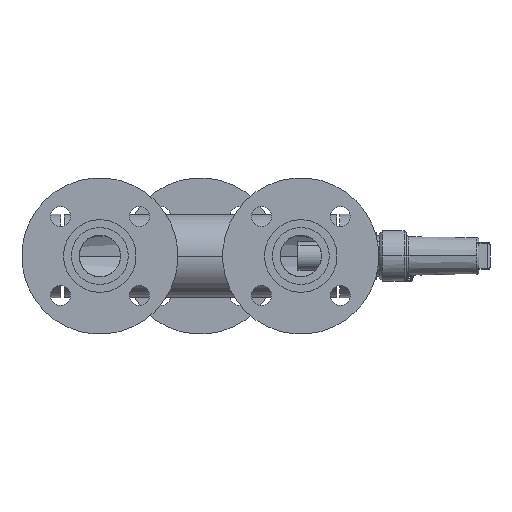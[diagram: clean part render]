
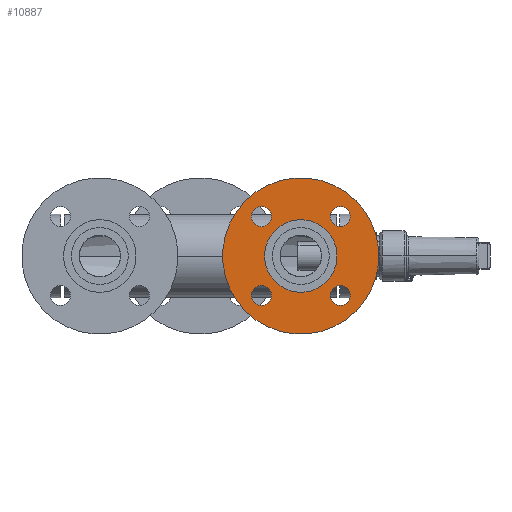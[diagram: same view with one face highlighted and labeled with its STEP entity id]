
A CAD part, left-side view. The second image highlights one B-rep face of the part: STEP entity #10887.
In plain terms, the highlighted planar face has unit normal (-1, 0, 0) as drawn and (0, -1, 0) by its records, which use the part's own axes.
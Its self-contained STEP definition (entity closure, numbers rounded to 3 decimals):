
#447 = CIRCLE ( 'NONE', #448, 70. ) ;
#448 = AXIS2_PLACEMENT_3D ( 'NONE', #449, #450, #451 ) ;
#449 = CARTESIAN_POINT ( 'NONE',  ( 0., 4., 0. ) ) ;
#450 = DIRECTION ( 'NONE',  ( 0., -1., 0. ) ) ;
#451 = DIRECTION ( 'NONE',  ( 1., 0., 0. ) ) ;
#676 = ORIENTED_EDGE ( 'NONE', *, *, #17905, .T. ) ;
#17454 = VERTEX_POINT ( 'NONE', #8065 ) ;
#17678 = VERTEX_POINT ( 'NONE', #8312 ) ;
#17757 = ORIENTED_EDGE ( 'NONE', *, *, #3048, .T. ) ;
#17905 = EDGE_CURVE ( 'NONE', #17678, #17454, #8529, .T. ) ;
#1775 = ORIENTED_EDGE ( 'NONE', *, *, #13713, .T. ) ;
#1867 = CARTESIAN_POINT ( 'NONE',  ( -70., 4., 0. ) ) ;
#18298 = EDGE_LOOP ( 'NONE', ( #17757, #22320 ) ) ;
#2868 = CARTESIAN_POINT ( 'NONE',  ( 70., 4., 0. ) ) ;
#3048 = EDGE_CURVE ( 'NONE', #4681, #5101, #25786, .T. ) ;
#19434 = ORIENTED_EDGE ( 'NONE', *, *, #15257, .T. ) ;
#19969 = ORIENTED_EDGE ( 'NONE', *, *, #25956, .T. ) ;
#3925 = VERTEX_POINT ( 'NONE', #26391 ) ;
#20512 = EDGE_LOOP ( 'NONE', ( #19969, #19434 ) ) ;
#4359 = VERTEX_POINT ( 'NONE', #26783 ) ;
#20767 = ORIENTED_EDGE ( 'NONE', *, *, #22647, .T. ) ;
#4508 = CARTESIAN_POINT ( 'NONE',  ( -32.5, 4., 0. ) ) ;
#4681 = VERTEX_POINT ( 'NONE', #26916 ) ;
#21305 = ORIENTED_EDGE ( 'NONE', *, *, #12707, .T. ) ;
#5101 = VERTEX_POINT ( 'NONE', #27099 ) ;
#5103 = CARTESIAN_POINT ( 'NONE',  ( 32.5, 4., 0. ) ) ;
#5242 = CIRCLE ( 'NONE', #5243, 70. ) ;
#5243 = AXIS2_PLACEMENT_3D ( 'NONE', #5244, #5245, #5246 ) ;
#5244 = CARTESIAN_POINT ( 'NONE',  ( 0., 4., 0. ) ) ;
#5245 = DIRECTION ( 'NONE',  ( 0., -1., 0. ) ) ;
#5246 = DIRECTION ( 'NONE',  ( 1., 0., 0. ) ) ;
#5470 = CIRCLE ( 'NONE', #5471, 32.5 ) ;
#5471 = AXIS2_PLACEMENT_3D ( 'NONE', #5472, #5473, #5474 ) ;
#5472 = CARTESIAN_POINT ( 'NONE',  ( 0., 4., 0. ) ) ;
#5473 = DIRECTION ( 'NONE',  ( 0., -1., 0. ) ) ;
#5474 = DIRECTION ( 'NONE',  ( 1., 0., 0. ) ) ;
#5534 = EDGE_CURVE ( 'NONE', #5101, #4681, #27407, .T. ) ;
#21927 = VERTEX_POINT ( 'NONE', #22569 ) ;
#21928 = EDGE_LOOP ( 'NONE', ( #21305, #20767 ) ) ;
#22320 = ORIENTED_EDGE ( 'NONE', *, *, #5534, .T. ) ;
#22359 = VERTEX_POINT ( 'NONE', #23056 ) ;
#22569 = CARTESIAN_POINT ( 'NONE',  ( -9., 4., 50. ) ) ;
#6264 = CIRCLE ( 'NONE', #6265, 32.5 ) ;
#6265 = AXIS2_PLACEMENT_3D ( 'NONE', #6266, #6267, #6268 ) ;
#6266 = CARTESIAN_POINT ( 'NONE',  ( 0., 4., 0. ) ) ;
#6267 = DIRECTION ( 'NONE',  ( 0., -1., 0. ) ) ;
#6268 = DIRECTION ( 'NONE',  ( 1., 0., 0. ) ) ;
#22647 = EDGE_CURVE ( 'NONE', #22359, #21927, #23543, .T. ) ;
#23056 = CARTESIAN_POINT ( 'NONE',  ( 9., 4., 50. ) ) ;
#6912 = VERTEX_POINT ( 'NONE', #4508 ) ;
#7138 = CIRCLE ( 'NONE', #7139, 9. ) ;
#7139 = AXIS2_PLACEMENT_3D ( 'NONE', #7140, #7141, #7142 ) ;
#7140 = CARTESIAN_POINT ( 'NONE',  ( 50., 4., 0. ) ) ;
#7141 = DIRECTION ( 'NONE',  ( 0., 1., 0. ) ) ;
#7142 = DIRECTION ( 'NONE',  ( 1., 0., 0. ) ) ;
#23543 = CIRCLE ( 'NONE', #23544, 9. ) ;
#23544 = AXIS2_PLACEMENT_3D ( 'NONE', #23545, #23546, #23547 ) ;
#23545 = CARTESIAN_POINT ( 'NONE',  ( 0., 4., 50. ) ) ;
#23546 = DIRECTION ( 'NONE',  ( 0., 1., 0. ) ) ;
#23547 = DIRECTION ( 'NONE',  ( 1., 0., 0. ) ) ;
#7335 = VERTEX_POINT ( 'NONE', #5103 ) ;
#7760 = EDGE_CURVE ( 'NONE', #7335, #6912, #5470, .T. ) ;
#24332 = CIRCLE ( 'NONE', #24333, 9. ) ;
#24333 = AXIS2_PLACEMENT_3D ( 'NONE', #24334, #24335, #24336 ) ;
#24334 = CARTESIAN_POINT ( 'NONE',  ( -50., 4., 0. ) ) ;
#24335 = DIRECTION ( 'NONE',  ( 0., 1., 0. ) ) ;
#24336 = DIRECTION ( 'NONE',  ( 1., 0., 0. ) ) ;
#24365 = CIRCLE ( 'NONE', #24366, 9. ) ;
#24366 = AXIS2_PLACEMENT_3D ( 'NONE', #24367, #24368, #24369 ) ;
#24367 = CARTESIAN_POINT ( 'NONE',  ( 0., 4., 50. ) ) ;
#24368 = DIRECTION ( 'NONE',  ( 0., 1., 0. ) ) ;
#24369 = DIRECTION ( 'NONE',  ( 1., 0., 0. ) ) ;
#8065 = CARTESIAN_POINT ( 'NONE',  ( 41., 4., 0. ) ) ;
#8312 = CARTESIAN_POINT ( 'NONE',  ( 59., 4., 0. ) ) ;
#8529 = CIRCLE ( 'NONE', #8530, 9. ) ;
#8530 = AXIS2_PLACEMENT_3D ( 'NONE', #8531, #8532, #8552 ) ;
#8531 = CARTESIAN_POINT ( 'NONE',  ( 50., 4., 0. ) ) ;
#8532 = DIRECTION ( 'NONE',  ( 0., 1., 0. ) ) ;
#8552 = DIRECTION ( 'NONE',  ( 1., 0., 0. ) ) ;
#8861 = EDGE_CURVE ( 'NONE', #17454, #17678, #7138, .T. ) ;
#25786 = CIRCLE ( 'NONE', #25787, 9. ) ;
#25787 = AXIS2_PLACEMENT_3D ( 'NONE', #25788, #25789, #25790 ) ;
#25788 = CARTESIAN_POINT ( 'NONE',  ( 0., 4., -50. ) ) ;
#25789 = DIRECTION ( 'NONE',  ( 0., 1., 0. ) ) ;
#25790 = DIRECTION ( 'NONE',  ( 1., 0., 0. ) ) ;
#9427 = ORIENTED_EDGE ( 'NONE', *, *, #8861, .T. ) ;
#25818 = EDGE_LOOP ( 'NONE', ( #11170, #16326 ) ) ;
#25956 = EDGE_CURVE ( 'NONE', #14798, #15025, #447, .T. ) ;
#26134 = ORIENTED_EDGE ( 'NONE', *, *, #12690, .T. ) ;
#26391 = CARTESIAN_POINT ( 'NONE',  ( -59., 4., 0. ) ) ;
#26783 = CARTESIAN_POINT ( 'NONE',  ( -41., 4., 0. ) ) ;
#10424 = EDGE_LOOP ( 'NONE', ( #9427, #676 ) ) ;
#26892 = CIRCLE ( 'NONE', #26893, 9. ) ;
#26893 = AXIS2_PLACEMENT_3D ( 'NONE', #26894, #26895, #26896 ) ;
#26894 = CARTESIAN_POINT ( 'NONE',  ( -50., 4., 0. ) ) ;
#26895 = DIRECTION ( 'NONE',  ( 0., 1., 0. ) ) ;
#26896 = DIRECTION ( 'NONE',  ( 1., 0., 0. ) ) ;
#26916 = CARTESIAN_POINT ( 'NONE',  ( -9., 4., -50. ) ) ;
#27099 = CARTESIAN_POINT ( 'NONE',  ( 9., 4., -50. ) ) ;
#10887 = ADVANCED_FACE ( 'NONE', ( #16037, #16038, #16039, #16040, #16041, #16042 ), #16043, .T. ) ;
#27407 = CIRCLE ( 'NONE', #27408, 9. ) ;
#27408 = AXIS2_PLACEMENT_3D ( 'NONE', #27409, #27410, #27411 ) ;
#27409 = CARTESIAN_POINT ( 'NONE',  ( 0., 4., -50. ) ) ;
#27410 = DIRECTION ( 'NONE',  ( 0., 1., 0. ) ) ;
#27411 = DIRECTION ( 'NONE',  ( 1., 0., 0. ) ) ;
#11170 = ORIENTED_EDGE ( 'NONE', *, *, #7760, .F. ) ;
#12075 = EDGE_LOOP ( 'NONE', ( #1775, #26134 ) ) ;
#12690 = EDGE_CURVE ( 'NONE', #4359, #3925, #24332, .T. ) ;
#12707 = EDGE_CURVE ( 'NONE', #21927, #22359, #24365, .T. ) ;
#13713 = EDGE_CURVE ( 'NONE', #3925, #4359, #26892, .T. ) ;
#14798 = VERTEX_POINT ( 'NONE', #1867 ) ;
#15025 = VERTEX_POINT ( 'NONE', #2868 ) ;
#15257 = EDGE_CURVE ( 'NONE', #15025, #14798, #5242, .T. ) ;
#15937 = EDGE_CURVE ( 'NONE', #6912, #7335, #6264, .T. ) ;
#16037 = FACE_BOUND ( 'NONE', #10424, .T. ) ;
#16038 = FACE_BOUND ( 'NONE', #12075, .T. ) ;
#16039 = FACE_BOUND ( 'NONE', #25818, .T. ) ;
#16040 = FACE_BOUND ( 'NONE', #18298, .T. ) ;
#16041 = FACE_BOUND ( 'NONE', #21928, .T. ) ;
#16042 = FACE_OUTER_BOUND ( 'NONE', #20512, .T. ) ;
#16043 = PLANE ( 'NONE',  #16044 ) ;
#16044 = AXIS2_PLACEMENT_3D ( 'NONE', #16045, #16046, #16047 ) ;
#16045 = CARTESIAN_POINT ( 'NONE',  ( 0., 4., 0. ) ) ;
#16046 = DIRECTION ( 'NONE',  ( 0., -1., 0. ) ) ;
#16047 = DIRECTION ( 'NONE',  ( 1., 0., 0. ) ) ;
#16326 = ORIENTED_EDGE ( 'NONE', *, *, #15937, .F. ) ;
